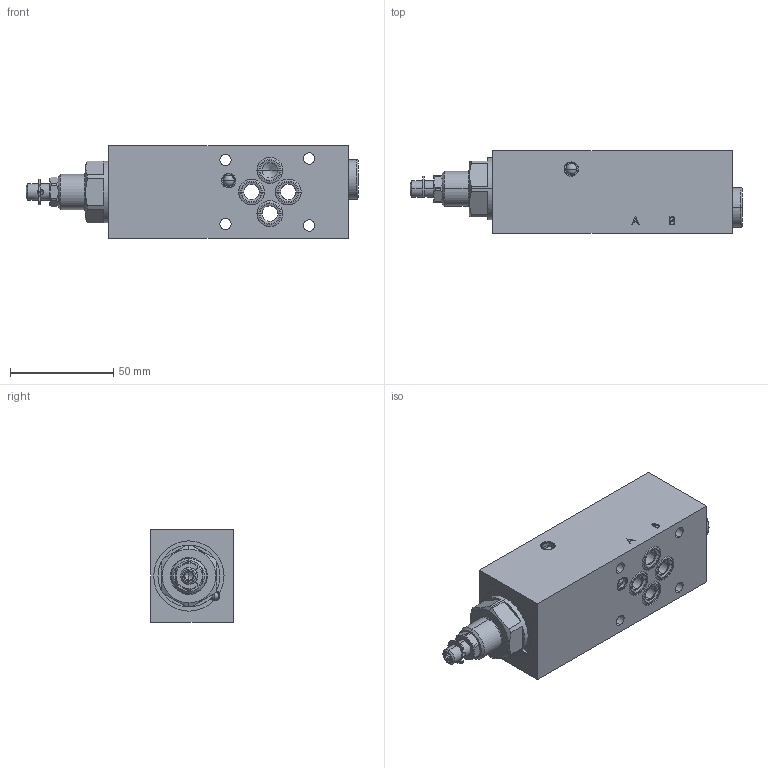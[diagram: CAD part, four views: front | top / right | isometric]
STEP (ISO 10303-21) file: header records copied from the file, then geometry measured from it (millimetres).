
FILE_DESCRIPTION (( 'STEP AP214' ), '1' );
FILE_NAME ('FVSSA06-P.STEP', '2017-03-23T07:14:09', ( '' ), ( '' ), 'SwSTEP 2.0', 'SolidWorks 2016', '' );
FILE_SCHEMA (( 'AUTOMOTIVE_DESIGN' ));
Length unit declared in the file: millimetre
Products named in the file (1): FVSSA06-P
Bounding box: 160.8 x 40 x 45 mm (x, y, z)
Volume: 209991.1 mm3; surface area: 35504.3 mm2
Topology: 10 solids, 16 shells, 393 faces, 941 edges, 584 vertices
Faces by surface type: cylinder 136, plane 113, cone 79, bspline 41, sphere 20, torus 4
Entity records: 16868 total; most frequent: CARTESIAN_POINT 3460, DIRECTION 1949, ORIENTED_EDGE 1830, EDGE_CURVE 915, AXIS2_PLACEMENT_3D 792, VERTEX_POINT 584, EDGE_LOOP 445, CIRCLE 439
